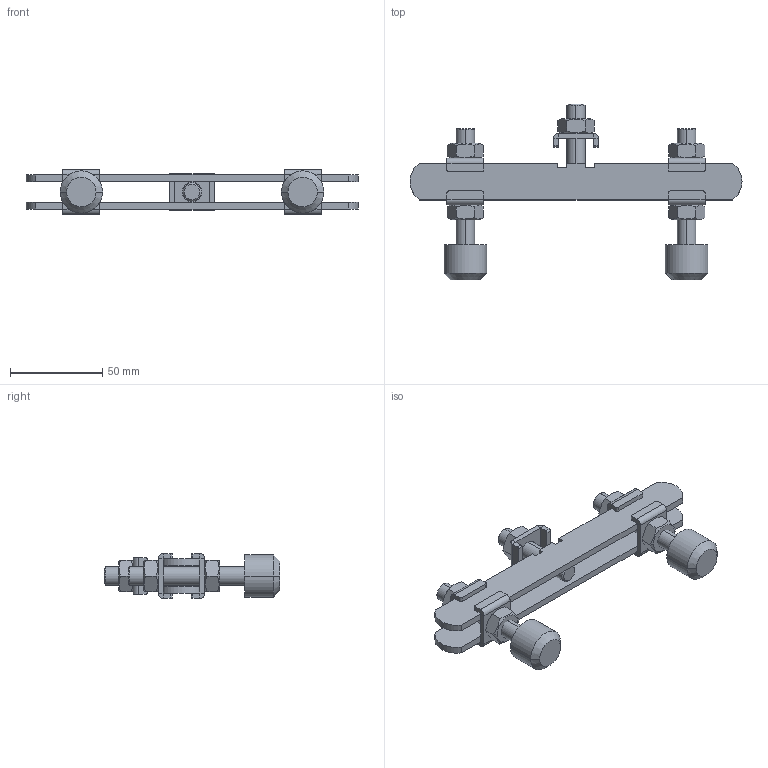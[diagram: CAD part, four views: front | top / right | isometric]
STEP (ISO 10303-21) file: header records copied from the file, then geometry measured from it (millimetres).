
FILE_DESCRIPTION (( 'STEP AP203' ), '1' );
FILE_NAME ('PBD-M10.STEP', '2016-07-25T18:16:32', ( 'Ricardo' ), ( '' ), 'SwSTEP 2.0', 'SolidWorks 2015', '' );
FILE_SCHEMA (( 'CONFIG_CONTROL_DESIGN' ));
Length unit declared in the file: millimetre
Products named in the file (7): 20.20015; 20.10003; PBD-M10; 20.20011; 10.20003; 11.50003; 14.10003
Assembly tree (17 placements, depth 2):
  PBD-M10
    20.20015  x2
    14.10003  x5
    11.50003  x5
    20.10003  x2
    10.20003
    20.20011  x2
Bounding box: 180 x 95.35 x 24.3 mm (x, y, z)
Volume: 70021.4 mm3; surface area: 40761.4 mm2
Topology: 17 solids, 17 shells, 304 faces, 690 edges, 418 vertices
Faces by surface type: plane 164, cylinder 80, cone 60
Entity records: 3566 total; most frequent: CARTESIAN_POINT 539, DIRECTION 461, ORIENTED_EDGE 382, EDGE_CURVE 191, AXIS2_PLACEMENT_3D 175, VERTEX_POINT 117, LINE 111, VECTOR 111
